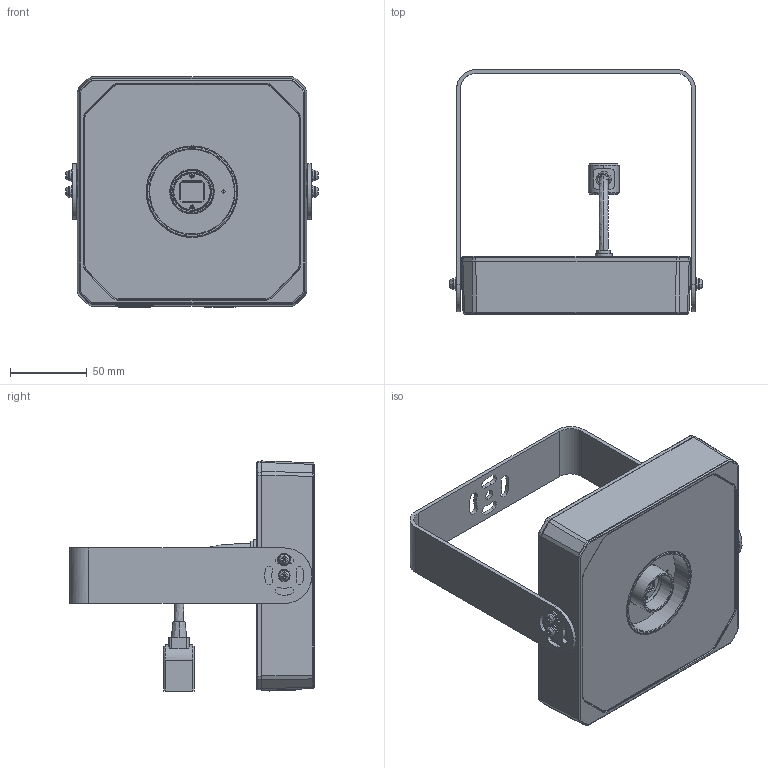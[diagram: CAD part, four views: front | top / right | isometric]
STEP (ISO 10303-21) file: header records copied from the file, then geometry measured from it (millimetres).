
FILE_DESCRIPTION(/* description */ (''),/* implementation_level */ '2;1');
FILE_NAME(/* name */ '6mp',/* time_stamp */ '2022-06-21T14:21:12+08:00',/* author */ (''),/* organization */ (''),/* preprocessor_version */ 'ST-DEVELOPER v16.5',/* originating_system */ '',/* authorisation */ '');
FILE_SCHEMA (('CONFIG_CONTROL_DESIGN'));
Products named in the file (40): Document; 000; 20001; SC_T1M2X3B; D-01-35-26-0007; MV-25115REV10-03171641-20220329; MV-25115REV10-202204011925_ASM; MV-25116REV10-202204011903_ASM; DA-19-007533; DE-12-000092; MV-23308REV10-0328-2054-2022032_ASM; _MV-23308REV10-0328-2054-202203; 190609782; D-01-37-26-0007; 193100277_SC-P0M2X5NL-GB818; 0003; MV-25116_ASM; PCB-LED-V3_1_; VH-2AW_1_; GW_PUSRA1PM_20170929_GEOMETRY_1; 101300365; 101301863; 100600954; 100600927; 101102247; 101107317; 101102076; DE-12-000564; DE-13-000409; DE-19-000197_; D-01-35-26-0837_6; SC-PA3X8B-JMP_; DE-15-000079; SC-PA2X6-JMP; DE-14-004581; 191400326_19; D-01-32-26-0685_; SC-K1A3X12-BNI_; SC-KM3X6-BNI-SUS-JMF_; DE-11-000759
Assembly tree (149 placements, depth 3):
  Document
    000
    20001
    SC_T1M2X3B  x2
    D-01-35-26-0007
    MV-25115REV10-03171641-20220329
    MV-25115REV10-202204011925_ASM
    MV-25116REV10-202204011903_ASM
    DA-19-007533
    DE-12-000092
    MV-23308REV10-0328-2054-2022032_ASM
      _MV-23308REV10-0328-2054-202203
    190609782
    D-01-37-26-0007
    193100277_SC-P0M2X5NL-GB818  x4
    0003
    MV-25116_ASM
      PCB-LED-V3_1_
      VH-2AW_1_
      GW_PUSRA1PM_20170929_GEOMETRY_1  x24
      101300365
      101301863
      100600954  x24
      100600927  x24
    101102247
    101107317
    101102076
    DE-12-000564
    DE-13-000409
    DE-19-000197_  x2
    D-01-35-26-0837_6
    SC-PA3X8B-JMP_  x24
    DE-15-000079  x4
    SC-PA2X6-JMP  x3
    DE-14-004581
    191400326_19  x4
    D-01-32-26-0685_  x2
    SC-K1A3X12-BNI_  x4
    SC-KM3X6-BNI-SUS-JMF_  x2
    DE-11-000759
Bounding box: 164.2 x 159.1 x 149.6 mm (x, y, z)
Volume: 419583.4 mm3; surface area: 427601.4 mm2
Topology: 310 solids, 340 shells, 15711 faces, 39858 edges, 25658 vertices
Faces by surface type: plane 10912, cylinder 3310, bspline 1489
Entity records: 312855 total; most frequent: CARTESIAN_POINT 139641, ORIENTED_EDGE 50366, EDGE_CURVE 25251, B_SPLINE_CURVE_WITH_KNOTS 19676, VERTEX_POINT 16335, EDGE_LOOP 10596, ADVANCED_FACE 9642, FACE_OUTER_BOUND 9642
